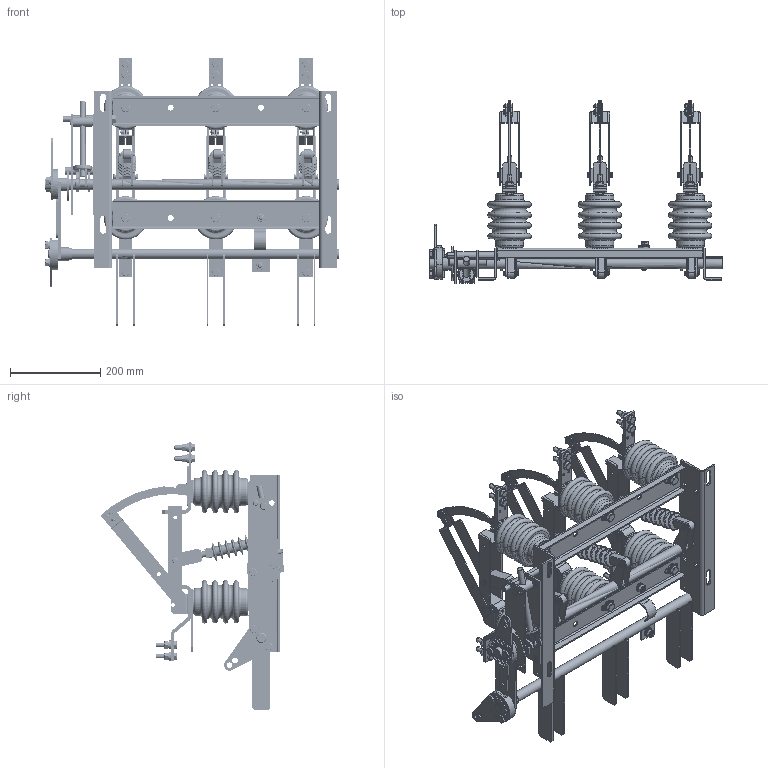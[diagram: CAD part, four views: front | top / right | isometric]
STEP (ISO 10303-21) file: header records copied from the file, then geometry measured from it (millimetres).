
FILE_DESCRIPTION (( 'STEP AP214' ), '1' );
FILE_NAME ('Âûêëþ÷àòåëü íàãðóçêè ÂÍÀ-10400-Ï-ç-È2-ÓÕË2-ÊÝÀÇ.STEP', '2023-02-01T06:38:24', ( '' ), ( '' ), 'SwSTEP 2.0', 'SolidWorks 2018', '' );
FILE_SCHEMA (( 'AUTOMOTIVE_DESIGN' ));
Length unit declared in the file: millimetre
Products named in the file (1): Âûêëþ÷àòåëü íàãðóçêè ÂÍÀ-10400-Ï-ç-È2-ÓÕË2-ÊÝÀÇ
Bounding box: 650.5 x 405.45 x 593.67 mm (x, y, z)
Volume: 6532763.9 mm3; surface area: 1479538.3 mm2
Topology: 1 solids, 27 shells, 3653 faces, 9206 edges, 5771 vertices
Faces by surface type: plane 1898, cylinder 1137, cone 422, torus 190, bspline 6
Full cylindrical faces by diameter (mm): 6.716 x2, 7.094 x1, 7.525 x1, 8.375 x1, 9.465 x3, 10.14 x3, 11.845 x4, 12.35 x6, 12.977 x3, 13.525 x1, 13.726 x3, 14.772 x2, 15.2 x5, 16.139 x1, 16.649 x1, 17.332 x1, 20 x12, 22 x2, 23 x4, 70 x1
Entity records: 133871 total; most frequent: CARTESIAN_POINT 46705, ORIENTED_EDGE 18196, DIRECTION 18153, EDGE_CURVE 9098, AXIS2_PLACEMENT_3D 6869, VERTEX_POINT 5724, LINE 4415, VECTOR 4415
